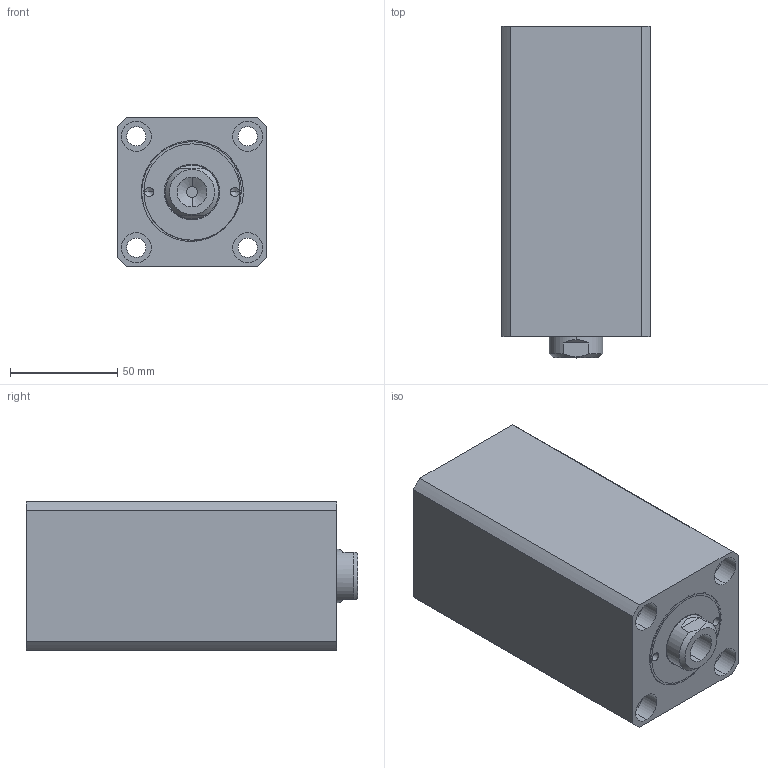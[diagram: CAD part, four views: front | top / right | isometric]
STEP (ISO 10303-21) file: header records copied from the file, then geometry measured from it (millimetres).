
FILE_DESCRIPTION (( 'STEP AP214' ), '1' );
FILE_NAME ('chtb-sdmb40x90n_asm.STEP', '2018-06-07T02:43:25', ( 'Windows' ), ( 'Microsoft' ), 'SwSTEP 2.0', 'SolidWorks 2015', '' );
FILE_SCHEMA (( 'AUTOMOTIVE_DESIGN' ));
Length unit declared in the file: millimetre
Products named in the file (4): CHTB-SD40QG; CHTB-SDMB40X90NBT; CHTB-SD40X90NHSG; chtb-sdmb40x90n_asm
Assembly tree (3 placements, depth 2):
  chtb-sdmb40x90n_asm
    CHTB-SD40X90NHSG
    CHTB-SDMB40X90NBT
    CHTB-SD40QG
Bounding box: 70 x 155 x 70 mm (x, y, z)
Volume: 583770.1 mm3; surface area: 114285.6 mm2
Topology: 3 solids, 3 shells, 155 faces, 407 edges, 270 vertices
Faces by surface type: cylinder 84, plane 34, torus 14, bspline 14, cone 9
Entity records: 10007 total; most frequent: CARTESIAN_POINT 6085, ORIENTED_EDGE 802, DIRECTION 758, EDGE_CURVE 401, AXIS2_PLACEMENT_3D 322, VERTEX_POINT 270, EDGE_LOOP 191, CIRCLE 175
